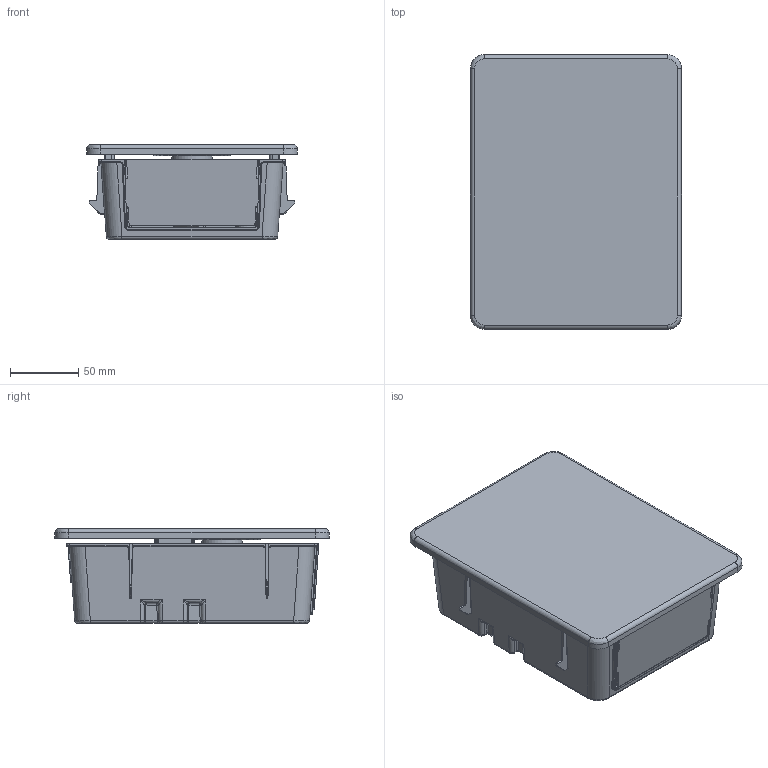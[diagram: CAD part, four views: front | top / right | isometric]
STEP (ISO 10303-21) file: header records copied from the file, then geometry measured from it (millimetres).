
FILE_DESCRIPTION(('STEP AP203'), '1');
FILE_NAME('ÂÐ.493111.003.000-VT.ICBOX.2', '2025-11-25T10:26:35', ('verevichevva'), ('Vesta'), 'C3D Converter', 'C3D Toolkit', '');
FILE_SCHEMA(('CONFIG_CONTROL_DESIGN'));
Length unit declared in the file: millimetre
Products named in the file (1): ВР.493111.003.000
Bounding box: 154.74 x 201.24 x 69.3 mm (x, y, z)
Volume: 496989.8 mm3; surface area: 219773.8 mm2
Topology: 1 solids, 1 shells, 3052 faces, 7785 edges, 4585 vertices
Faces by surface type: bspline 984, cylinder 883, plane 769, torus 266, cone 111, sphere 39
Full cylindrical faces by diameter (mm): 4 x1, 10 x1, 22.5 x2, 26 x3, 26.1 x2, 27.2 x1, 30 x2, 31 x2
Entity records: 181498 total; most frequent: CARTESIAN_POINT 118101, ORIENTED_EDGE 15094, DIRECTION 10050, EDGE_CURVE 7547, VERTEX_POINT 4583, AXIS2_PLACEMENT_3D 3798, B_SPLINE_CURVE_WITH_KNOTS 3225, EDGE_LOOP 3162
